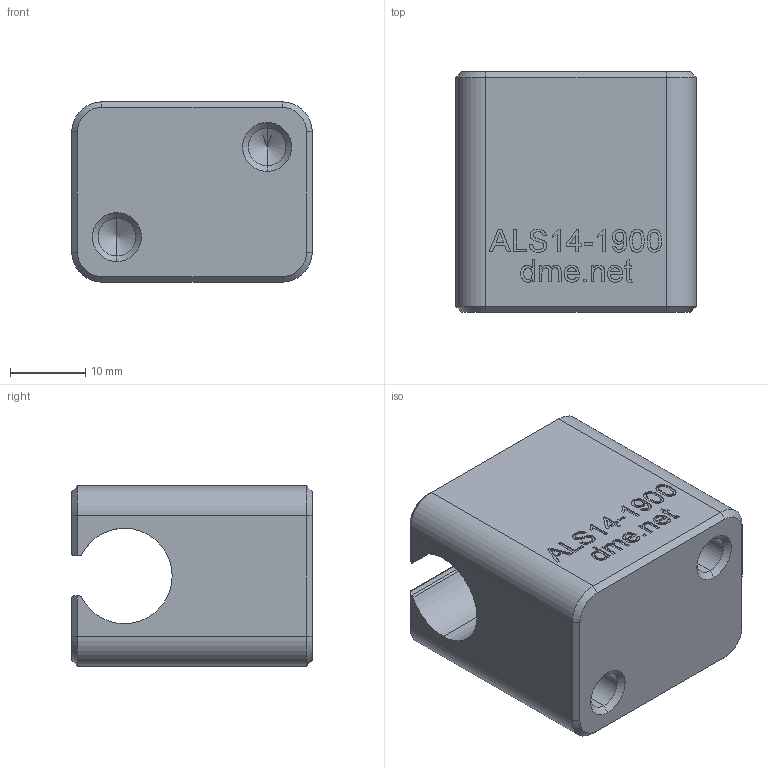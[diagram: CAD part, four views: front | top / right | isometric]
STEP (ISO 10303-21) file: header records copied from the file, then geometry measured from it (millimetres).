
FILE_DESCRIPTION (( 'STEP AP203' ), '1' );
FILE_NAME ('ALS14-1900.STEP', '2021-01-10T21:51:40', ( '' ), ( '' ), 'SwSTEP 2.0', 'SolidWorks 2020', '' );
FILE_SCHEMA (( 'CONFIG_CONTROL_DESIGN' ));
Length unit declared in the file: millimetre
Products named in the file (1): ALS14-1900
Bounding box: 32 x 32 x 24 mm (x, y, z)
Volume: 19471.6 mm3; surface area: 5844 mm2
Topology: 1 solids, 1 shells, 268 faces, 699 edges, 456 vertices
Faces by surface type: plane 139, bspline 98, cone 16, cylinder 15
Entity records: 13488 total; most frequent: CARTESIAN_POINT 7515, ORIENTED_EDGE 1390, DIRECTION 870, EDGE_CURVE 695, VERTEX_POINT 456, LINE 454, VECTOR 454, EDGE_LOOP 295
